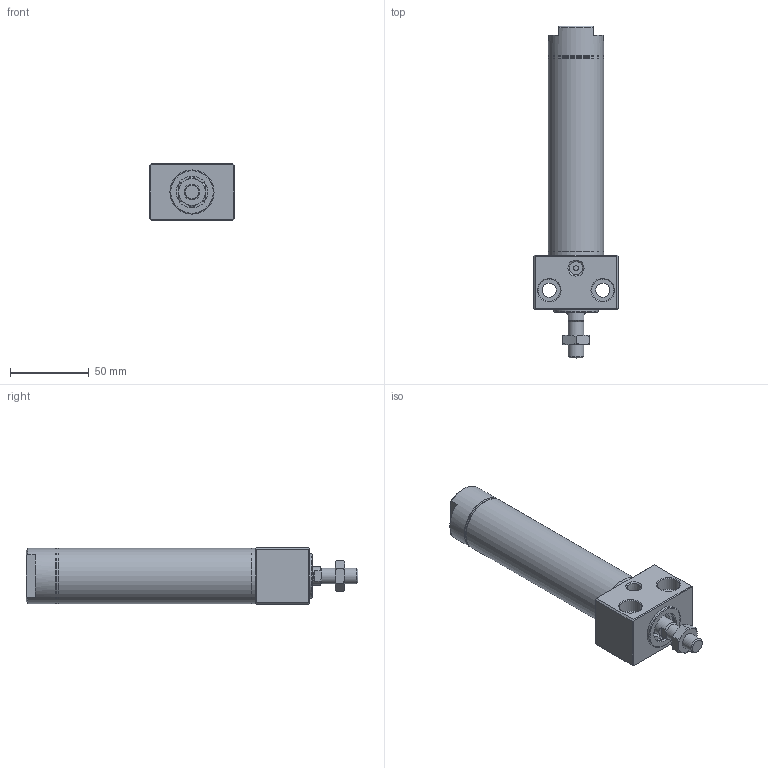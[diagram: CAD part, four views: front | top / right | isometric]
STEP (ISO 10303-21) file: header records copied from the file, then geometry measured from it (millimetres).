
FILE_DESCRIPTION((''),'2;1');
FILE_NAME('I:\3D電子目錄\氣缸\DBS\DBS\DBS30x75.stp','2007-10-08T08:43:10',('Administrator'),(''),'Autodesk Inventor 2008','Autodesk Inventor 2008','');
FILE_SCHEMA(('AUTOMOTIVE_DESIGN { 1 0 10303 214 1 1 1 1 }'));
Length unit declared in the file: millimetre
Products named in the file (1): DBS30x75
Bounding box: 54 x 210.6 x 36 mm (x, y, z)
Volume: 129657.3 mm3; surface area: 54795.9 mm2
Topology: 6 solids, 6 shells, 166 faces, 329 edges, 198 vertices
Faces by surface type: plane 75, cone 41, cylinder 35, bspline 12, torus 3
Full cylindrical faces by diameter (mm): 3 x1, 6.5 x1, 8 x1, 9 x1, 10 x2, 12 x1, 12.5 x1, 14 x1, 16 x1, 17 x2, 20 x2, 21 x3, 24 x2, 28 x3, 28.5 x2, 30 x1, 32.2 x6, 35 x4
Entity records: 4070 total; most frequent: CARTESIAN_POINT 931, DIRECTION 660, ORIENTED_EDGE 504, AXIS2_PLACEMENT_3D 289, EDGE_LOOP 278, EDGE_CURVE 252, VERTEX_POINT 192, FACE_OUTER_BOUND 166
